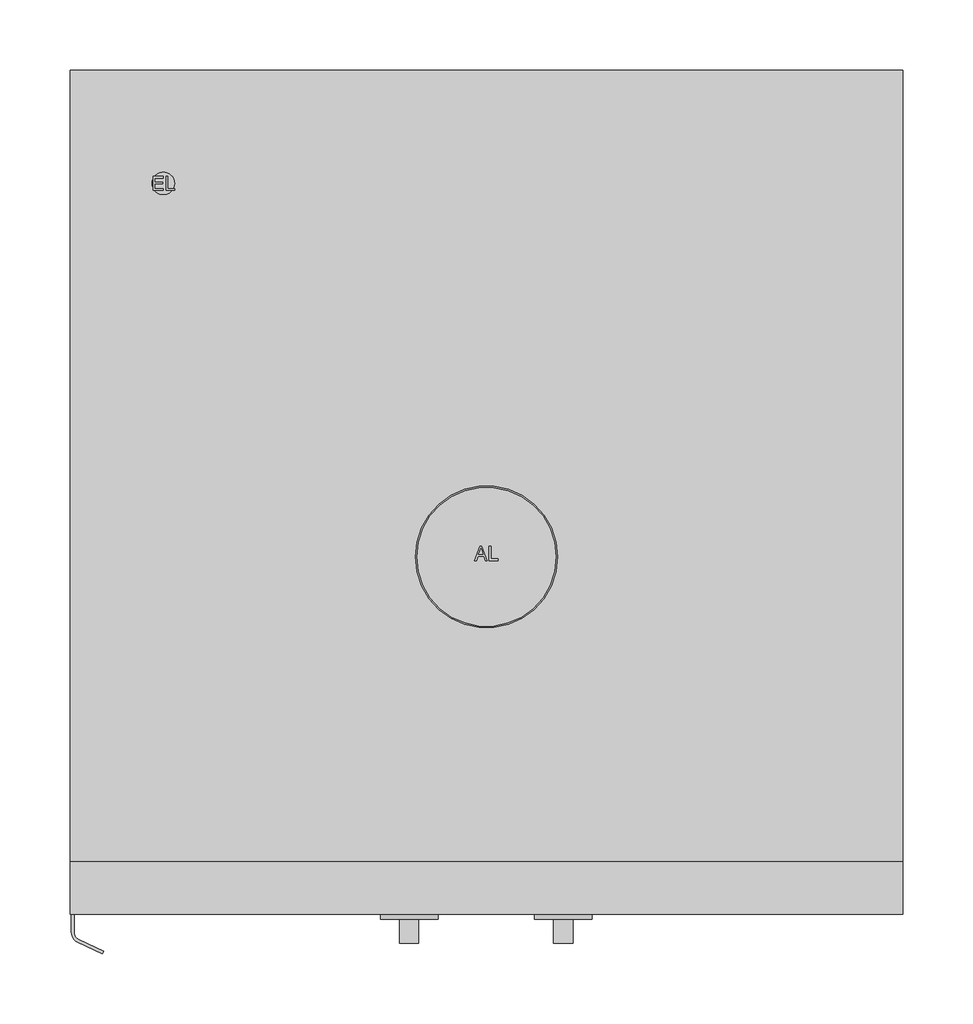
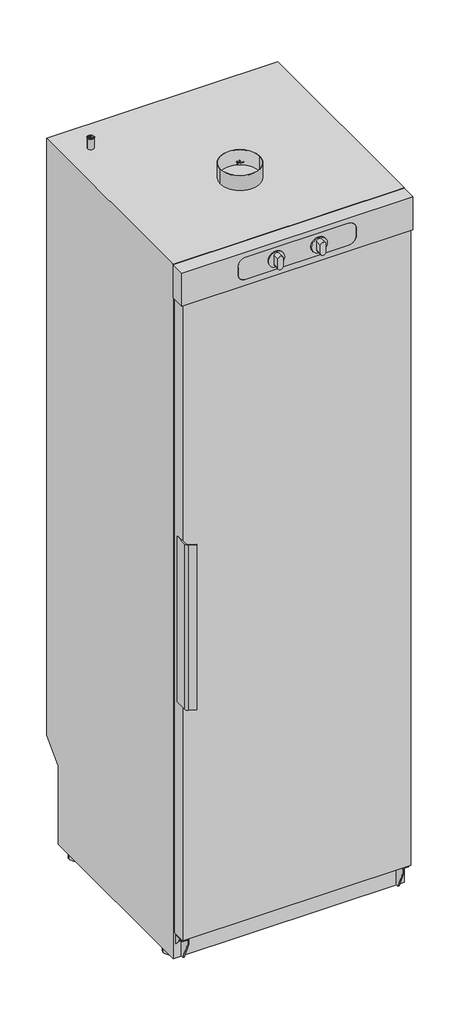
# Not in any storey: 1 proxy.
"""IFC4 building model written with IfcOpenShell, lengths in millimetres."""

from ifc_helpers import new_model, si_unit, origin, place, context, project, spatial, transform, mapped, element, save
from components import specialty_equipment_527cdb43

model = new_model("IFC4")

# Units and contexts
model_context = context("Model", 3, world=origin())
ifc_project = project(units=[si_unit("LENGTHUNIT", "METRE", prefix="MILLI")], contexts=[model_context])

# Site, building
site = spatial("IfcSite", under=ifc_project)
building = spatial("IfcBuilding", under=site)

# Proxy
placement = place(None, origin())
specialty_equipment_shape = specialty_equipment_527cdb43(model_context)
element("IfcBuildingElementProxy", 1, Name="12173370_EU_EasyDryer1900Extreme : 52190001_EU_12173370_EasyDryer1900Extreme", ObjectType="12173370_EU_EasyDryer1900Extreme : 52190001_EU_12173370_EasyDryer1900Extreme", at=placement, inside=building, context=model_context, shape_type="MappedRepresentation", body=[
    mapped(specialty_equipment_shape, transform((0.0, 0.0, 0.0), x_axis=(1.0, 0.0, 0.0), y_axis=(0.0, 1.0, 0.0), z_axis=(0.0, 0.0, 1.0))),
])

save(model, "model.ifc")
